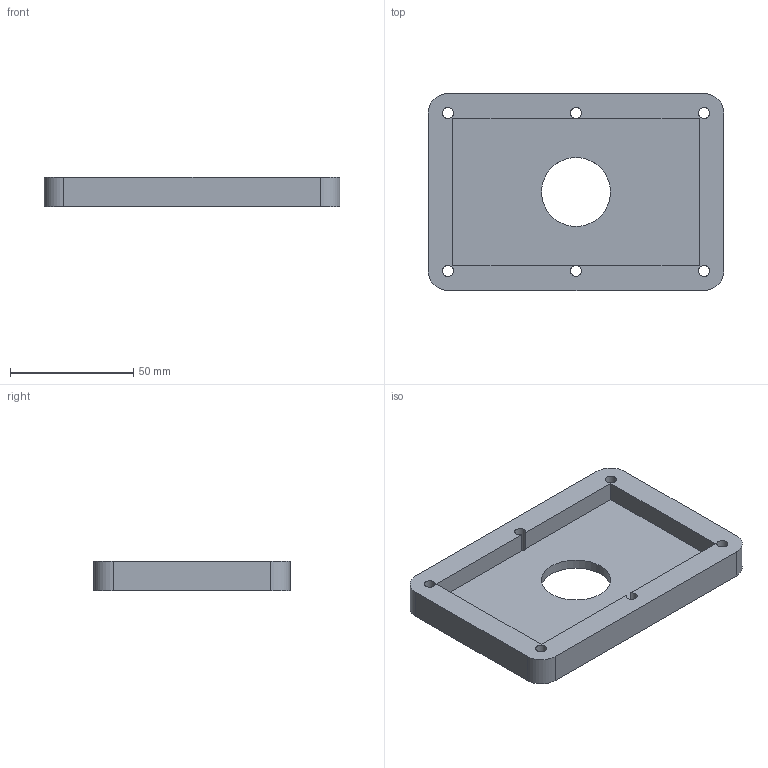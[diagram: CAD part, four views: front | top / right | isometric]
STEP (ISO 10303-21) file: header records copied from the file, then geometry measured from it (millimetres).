
FILE_DESCRIPTION(('Open CASCADE Model'),'2;1');
FILE_NAME('Open CASCADE Shape Model','2026-07-12T13:14:43',('Author'),( 'Open CASCADE'),'Open CASCADE STEP processor 7.9','build123d', 'Unknown');
FILE_SCHEMA(('AUTOMOTIVE_DESIGN { 1 0 10303 214 1 1 1 1 }'));
Length unit declared in the file: millimetre
Products named in the file (1): COMPOUND
Bounding box: 120 x 80 x 12 mm (x, y, z)
Volume: 62938.2 mm3; surface area: 26165.4 mm2
Topology: 1 solids, 1 shells, 24 faces, 69 edges, 46 vertices
Faces by surface type: plane 13, cylinder 11
Full cylindrical faces by diameter (mm): 4.5 x6, 28 x1
Entity records: 1726 total; most frequent: CARTESIAN_POINT 322, DIRECTION 259, ORIENTED_EDGE 138, PCURVE 138, DEFINITIONAL_REPRESENTATION 138, LINE 135, VECTOR 135, EDGE_CURVE 69
